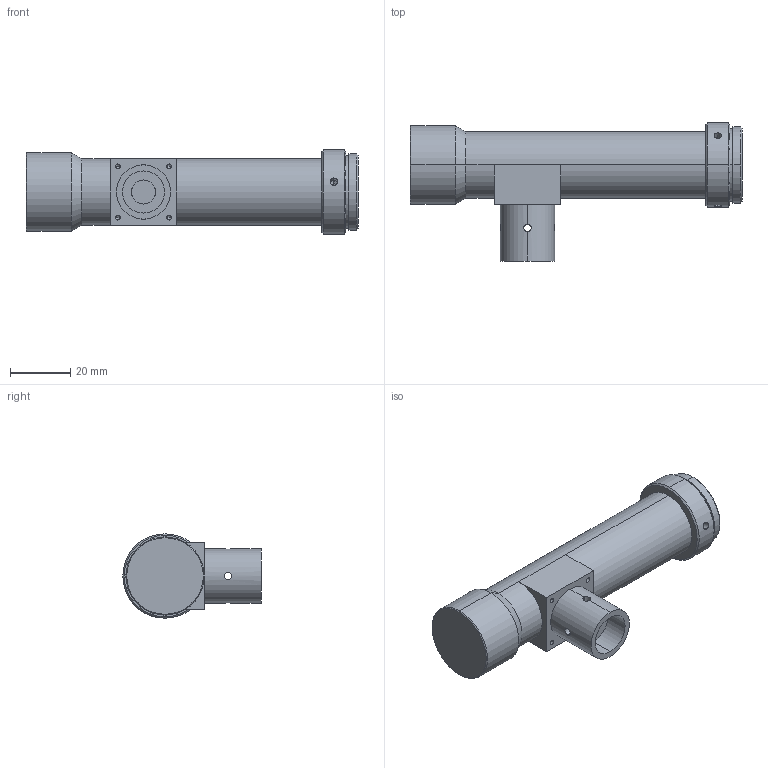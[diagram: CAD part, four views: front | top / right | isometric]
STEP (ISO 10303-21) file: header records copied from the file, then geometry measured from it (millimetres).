
FILE_DESCRIPTION (( 'STEP AP203' ), '1' );
FILE_NAME ('WWH40-65CT.STEP', '2019-12-03T03:52:01', ( 'Windows 蚚誧' ), ( '' ), 'SwSTEP 2.0', 'SolidWorks 2017', '' );
FILE_SCHEMA (( 'CONFIG_CONTROL_DESIGN' ));
Length unit declared in the file: millimetre
Products named in the file (1): WWH40-65CT
Bounding box: 110.2 x 45.9 x 28 mm (x, y, z)
Volume: 51605.3 mm3; surface area: 11977.8 mm2
Topology: 1 solids, 1 shells, 76 faces, 180 edges, 101 vertices
Faces by surface type: cylinder 39, cone 24, plane 13
Entity records: 2511 total; most frequent: CARTESIAN_POINT 742, DIRECTION 364, ORIENTED_EDGE 332, EDGE_CURVE 166, AXIS2_PLACEMENT_3D 143, VERTEX_POINT 101, EDGE_LOOP 93, LINE 78
